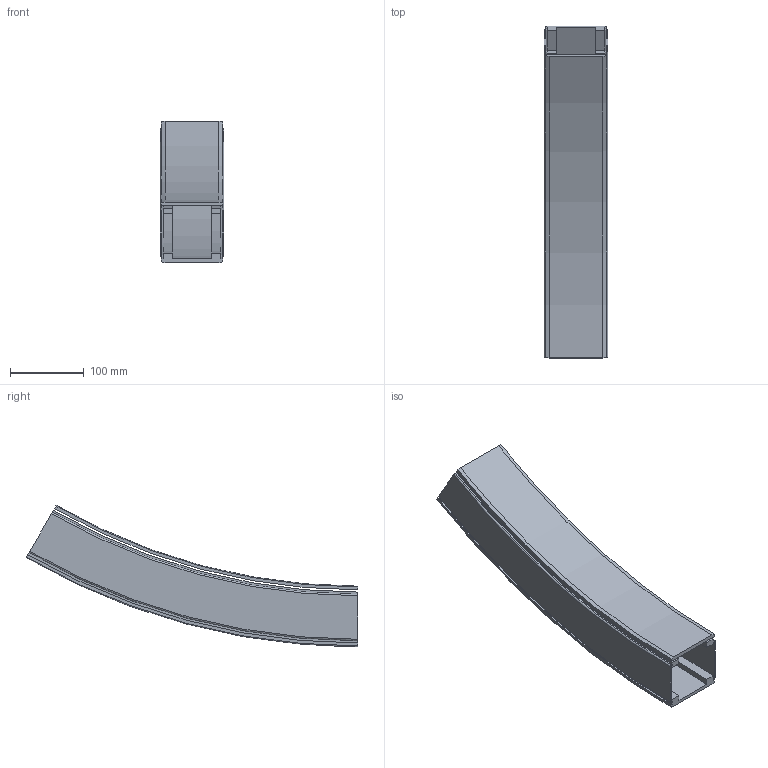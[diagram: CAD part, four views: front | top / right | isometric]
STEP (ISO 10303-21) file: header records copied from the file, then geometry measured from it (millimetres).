
FILE_DESCRIPTION(/* description */ ('VERTIKALKURVA S530 R860'),/* implementation_level */ '2;1');
FILE_NAME(/* name */ '530-5695+830-2000-NER-01.stp',/* time_stamp */ '2022-09-21T07:25:29+02:00',/* author */ ('Mathias.Dore'),/* organization */ ('CARRYLINE'),/* preprocessor_version */ 'ST-DEVELOPER v19.2',/* originating_system */ 'Autodesk Inventor 2023',/* authorisation */ '');
FILE_SCHEMA (('AUTOMOTIVE_DESIGN { 1 0 10303 214 3 1 1 }'));
Length unit declared in the file: millimetre
Products named in the file (1): 530-5695+830-2000-NER-01
Bounding box: 86 x 449.75 x 191.52 mm (x, y, z)
Volume: 667845.7 mm3; surface area: 325546 mm2
Topology: 2 solids, 2 shells, 87 faces, 234 edges, 156 vertices
Faces by surface type: plane 40, cylinder 25, bspline 14, cone 4, torus 4
Entity records: 7351 total; most frequent: CARTESIAN_POINT 5152, ORIENTED_EDGE 468, DIRECTION 408, EDGE_CURVE 234, VERTEX_POINT 156, AXIS2_PLACEMENT_3D 141, LINE 126, VECTOR 126
